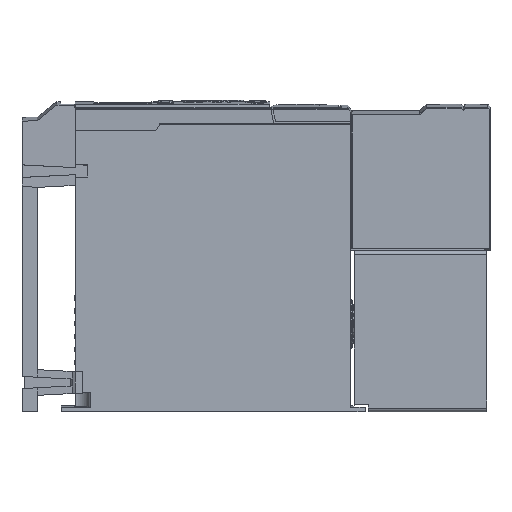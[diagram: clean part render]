
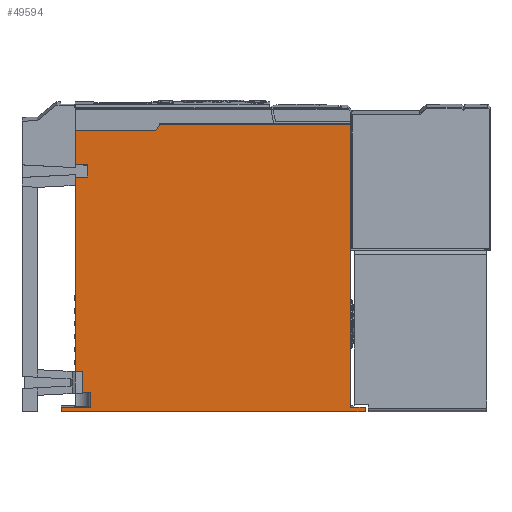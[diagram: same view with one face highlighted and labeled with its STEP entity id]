
A CAD part, left-side view. The second image highlights one B-rep face of the part: STEP entity #49594.
In plain terms, the highlighted planar face has unit normal (-1, 0, 0).
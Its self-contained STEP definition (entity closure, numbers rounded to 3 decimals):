
#13993=DIRECTION('',(0.,0.,-1.));
#13994=VECTOR('',#13993,122.548);
#13995=CARTESIAN_POINT('',(-49.4,90.75,59.6));
#13996=LINE('',#13995,#13994);
#14829=DIRECTION('',(0.,1.,0.));
#14830=VECTOR('',#14829,53.072);
#14831=CARTESIAN_POINT('',(-49.4,37.678,95.475));
#14832=LINE('',#14831,#14830);
#14836=DIRECTION('',(0.,0.5,-0.866));
#14837=VECTOR('',#14836,5.196);
#14838=CARTESIAN_POINT('',(-49.4,35.08,99.975));
#14839=LINE('',#14838,#14837);
#14843=DIRECTION('',(0.,-1.,0.));
#14844=VECTOR('',#14843,125.83);
#14845=CARTESIAN_POINT('',(-49.4,35.08,99.975));
#14846=LINE('',#14845,#14844);
#14850=DIRECTION('',(0.,0.,-1.));
#14851=VECTOR('',#14850,186.375);
#14852=CARTESIAN_POINT('',(-49.4,-90.75,99.975));
#14853=LINE('',#14852,#14851);
#14857=DIRECTION('',(0.,0.,1.));
#14858=VECTOR('',#14857,9.501);
#14859=CARTESIAN_POINT('',(-49.4,80.75,-85.901));
#14860=LINE('',#14859,#14858);
#14864=DIRECTION('',(0.,1.,0.));
#14865=VECTOR('',#14864,10.);
#14866=CARTESIAN_POINT('',(-49.4,80.75,-76.4));
#14867=LINE('',#14866,#14865);
#14871=DIRECTION('',(0.,0.,-1.));
#14872=VECTOR('',#14871,13.452);
#14873=CARTESIAN_POINT('',(-49.4,90.75,-62.948));
#14874=LINE('',#14873,#14872);
#14878=DIRECTION('',(0.,0.,-1.));
#14879=VECTOR('',#14878,4.9);
#14880=CARTESIAN_POINT('',(-49.4,90.75,64.5));
#14881=LINE('',#14880,#14879);
#14885=DIRECTION('',(0.,-1.,0.));
#14886=VECTOR('',#14885,8.);
#14887=CARTESIAN_POINT('',(-49.4,90.75,64.5));
#14888=LINE('',#14887,#14886);
#14892=CARTESIAN_POINT('',(-49.4,82.75,64.5));
#14893=CARTESIAN_POINT('',(-49.4,82.75,64.705));
#14894=CARTESIAN_POINT('',(-49.4,82.751,64.911));
#14895=CARTESIAN_POINT('',(-49.4,82.751,65.116));
#14900=DIRECTION('',(0.,0.,1.));
#14901=VECTOR('',#14900,7.767);
#14902=CARTESIAN_POINT('',(-49.4,82.751,65.116));
#14903=LINE('',#14902,#14901);
#14907=CARTESIAN_POINT('',(-49.4,82.751,72.884));
#14908=CARTESIAN_POINT('',(-49.4,82.751,73.089));
#14909=CARTESIAN_POINT('',(-49.4,82.75,73.295));
#14910=CARTESIAN_POINT('',(-49.4,82.75,73.5));
#14915=DIRECTION('',(0.,-1.,0.));
#14916=VECTOR('',#14915,8.);
#14917=CARTESIAN_POINT('',(-49.4,90.75,73.5));
#14918=LINE('',#14917,#14916);
#14922=DIRECTION('',(0.,0.,-1.));
#14923=VECTOR('',#14922,21.975);
#14924=CARTESIAN_POINT('',(-49.4,90.75,95.475));
#14925=LINE('',#14924,#14923);
#23390=DIRECTION('',(0.,-1.,0.));
#23391=VECTOR('',#23390,200.);
#23392=CARTESIAN_POINT('',(-49.4,100.,-89.4));
#23393=LINE('',#23392,#23391);
#23534=DIRECTION('',(0.,1.,0.));
#23535=VECTOR('',#23534,9.25);
#23536=CARTESIAN_POINT('',(-49.4,-100.,-86.4));
#23537=LINE('',#23536,#23535);
#23588=DIRECTION('',(0.,1.,0.));
#23589=VECTOR('',#23588,18.748);
#23590=CARTESIAN_POINT('',(-49.4,81.252,-86.4));
#23591=LINE('',#23590,#23589);
#24194=DIRECTION('',(0.,0.,1.));
#24195=VECTOR('',#24194,3.);
#24196=CARTESIAN_POINT('',(-49.4,-100.,-89.4));
#24197=LINE('',#24196,#24195);
#24817=CARTESIAN_POINT('',(-49.4,80.75,-85.901));
#24818=CARTESIAN_POINT('',(-49.4,80.75,-86.068));
#24819=CARTESIAN_POINT('',(-49.4,80.877,-86.274));
#24820=CARTESIAN_POINT('',(-49.4,81.085,-86.4));
#24821=CARTESIAN_POINT('',(-49.4,81.252,-86.4));
#24875=DIRECTION('',(0.,0.,1.));
#24876=VECTOR('',#24875,3.);
#24877=CARTESIAN_POINT('',(-49.4,100.,-89.4));
#24878=LINE('',#24877,#24876);
#26836=CARTESIAN_POINT('',(-49.4,-100.,-89.4));
#26837=CARTESIAN_POINT('',(-49.4,-100.,-86.4));
#26838=VERTEX_POINT('',#26836);
#26839=VERTEX_POINT('',#26837);
#26844=CARTESIAN_POINT('',(-49.4,100.,-89.4));
#26845=CARTESIAN_POINT('',(-49.4,100.,-86.4));
#26846=VERTEX_POINT('',#26844);
#26847=VERTEX_POINT('',#26845);
#26854=CARTESIAN_POINT('',(-49.4,-90.75,-86.4));
#26855=VERTEX_POINT('',#26854);
#26906=CARTESIAN_POINT('',(-49.4,80.75,-76.4));
#26908=VERTEX_POINT('',#26906);
#27922=CARTESIAN_POINT('',(-49.4,81.252,-86.4));
#27924=VERTEX_POINT('',#27922);
#27926=CARTESIAN_POINT('',(-49.4,80.75,-85.901));
#27928=VERTEX_POINT('',#27926);
#29196=CARTESIAN_POINT('',(-49.4,82.75,64.5));
#29197=VERTEX_POINT('',#29196);
#29198=CARTESIAN_POINT('',(-49.4,82.75,73.5));
#29199=VERTEX_POINT('',#29198);
#30054=CARTESIAN_POINT('',(-49.4,90.75,64.5));
#30055=CARTESIAN_POINT('',(-49.4,90.75,59.6));
#30056=VERTEX_POINT('',#30054);
#30057=VERTEX_POINT('',#30055);
#30058=CARTESIAN_POINT('',(-49.4,90.75,-62.948));
#30059=CARTESIAN_POINT('',(-49.4,90.75,-76.4));
#30060=VERTEX_POINT('',#30058);
#30061=VERTEX_POINT('',#30059);
#30207=CARTESIAN_POINT('',(-49.4,90.75,73.5));
#30209=VERTEX_POINT('',#30207);
#30227=CARTESIAN_POINT('',(-49.4,82.751,72.884));
#30229=VERTEX_POINT('',#30227);
#30239=VERTEX_POINT('',#14895);
#30377=CARTESIAN_POINT('',(-49.4,37.678,95.475));
#30378=CARTESIAN_POINT('',(-49.4,90.75,95.475));
#30379=VERTEX_POINT('',#30377);
#30380=VERTEX_POINT('',#30378);
#30383=CARTESIAN_POINT('',(-49.4,35.08,99.975));
#30384=VERTEX_POINT('',#30383);
#30386=CARTESIAN_POINT('',(-49.4,-90.75,99.975));
#30388=VERTEX_POINT('',#30386);
#49550=CARTESIAN_POINT('',(-49.4,90.75,-89.4));
#49551=DIRECTION('',(-1.,0.,0.));
#49552=DIRECTION('',(0.,-1.,0.));
#49553=AXIS2_PLACEMENT_3D('',#49550,#49551,#49552);
#49554=PLANE('',#49553);
#49556=ORIENTED_EDGE('',*,*,#49555,.F.);
#49558=ORIENTED_EDGE('',*,*,#49557,.F.);
#49560=ORIENTED_EDGE('',*,*,#49559,.T.);
#49561=ORIENTED_EDGE('',*,*,#37339,.T.);
#49563=ORIENTED_EDGE('',*,*,#49562,.F.);
#49565=ORIENTED_EDGE('',*,*,#49564,.F.);
#49567=ORIENTED_EDGE('',*,*,#49566,.F.);
#49569=ORIENTED_EDGE('',*,*,#49568,.T.);
#49571=ORIENTED_EDGE('',*,*,#49570,.F.);
#49573=ORIENTED_EDGE('',*,*,#49572,.F.);
#49575=ORIENTED_EDGE('',*,*,#49574,.T.);
#49577=ORIENTED_EDGE('',*,*,#49576,.T.);
#49578=ORIENTED_EDGE('',*,*,#49326,.F.);
#49579=ORIENTED_EDGE('',*,*,#48819,.F.);
#49580=ORIENTED_EDGE('',*,*,#49302,.F.);
#49582=ORIENTED_EDGE('',*,*,#49581,.T.);
#49584=ORIENTED_EDGE('',*,*,#49583,.T.);
#49586=ORIENTED_EDGE('',*,*,#49585,.T.);
#49588=ORIENTED_EDGE('',*,*,#49587,.T.);
#49590=ORIENTED_EDGE('',*,*,#49589,.F.);
#49591=ORIENTED_EDGE('',*,*,#49496,.F.);
#49592=EDGE_LOOP('',(#49556,#49558,#49560,#49561,#49563,#49565,#49567,#49569,
#49571,#49573,#49575,#49577,#49578,#49579,#49580,#49582,#49584,#49586,#49588,
#49590,#49591));
#49593=FACE_OUTER_BOUND('',#49592,.F.);
#49594=ADVANCED_FACE('',(#49593),#49554,.T.);
#14896=B_SPLINE_CURVE_WITH_KNOTS('',3,(#14892,#14893,#14894,#14895),
.UNSPECIFIED.,.F.,.F.,(4,4),(0.,1.),.UNSPECIFIED.);
#14911=B_SPLINE_CURVE_WITH_KNOTS('',3,(#14907,#14908,#14909,#14910),
.UNSPECIFIED.,.F.,.F.,(4,4),(0.,1.),.UNSPECIFIED.);
#24822=B_SPLINE_CURVE_WITH_KNOTS('',3,(#24817,#24818,#24819,#24820,#24821),
.UNSPECIFIED.,.F.,.F.,(4,1,4),(0.,0.5,1.),.UNSPECIFIED.);
#37339=EDGE_CURVE('',#30388,#26855,#14853,.T.);
#48819=EDGE_CURVE('',#30057,#30060,#13996,.T.);
#49302=EDGE_CURVE('',#30056,#30057,#14881,.T.);
#49326=EDGE_CURVE('',#30060,#30061,#14874,.T.);
#49496=EDGE_CURVE('',#30380,#30209,#14925,.T.);
#49555=EDGE_CURVE('',#30379,#30380,#14832,.T.);
#49557=EDGE_CURVE('',#30384,#30379,#14839,.T.);
#49559=EDGE_CURVE('',#30384,#30388,#14846,.T.);
#49562=EDGE_CURVE('',#26839,#26855,#23537,.T.);
#49564=EDGE_CURVE('',#26838,#26839,#24197,.T.);
#49566=EDGE_CURVE('',#26846,#26838,#23393,.T.);
#49568=EDGE_CURVE('',#26846,#26847,#24878,.T.);
#49570=EDGE_CURVE('',#27924,#26847,#23591,.T.);
#49572=EDGE_CURVE('',#27928,#27924,#24822,.T.);
#49574=EDGE_CURVE('',#27928,#26908,#14860,.T.);
#49576=EDGE_CURVE('',#26908,#30061,#14867,.T.);
#49581=EDGE_CURVE('',#30056,#29197,#14888,.T.);
#49583=EDGE_CURVE('',#29197,#30239,#14896,.T.);
#49585=EDGE_CURVE('',#30239,#30229,#14903,.T.);
#49587=EDGE_CURVE('',#30229,#29199,#14911,.T.);
#49589=EDGE_CURVE('',#30209,#29199,#14918,.T.);
